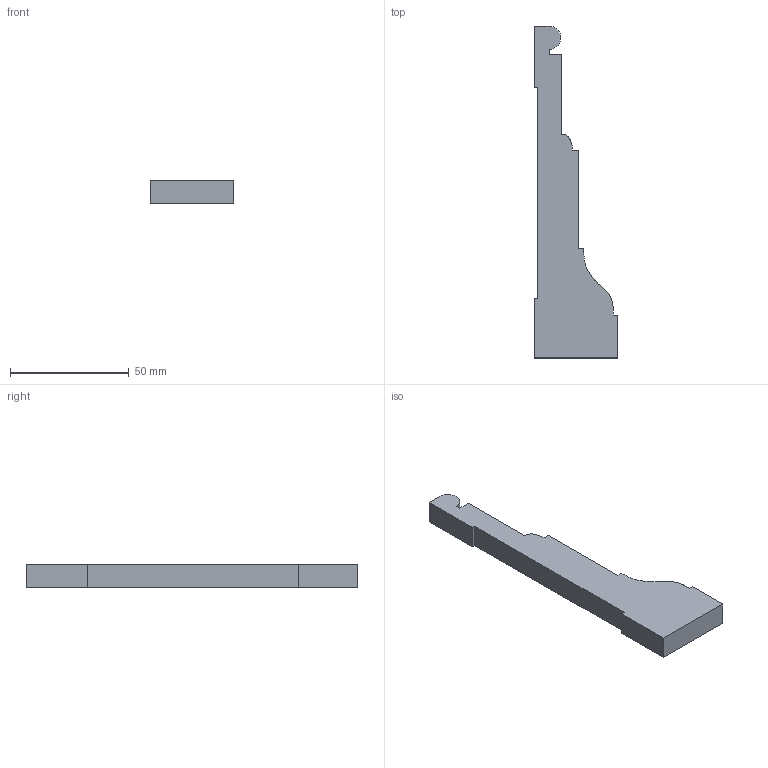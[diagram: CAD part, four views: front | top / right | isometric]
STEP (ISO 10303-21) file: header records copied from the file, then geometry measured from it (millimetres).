
FILE_DESCRIPTION (( 'STEP AP203' ), '1' );
FILE_NAME ('AB137FJ.STEP', '2024-02-17T09:55:10', ( '' ), ( '' ), 'SwSTEP 2.0', 'SolidWorks 2020', '' );
FILE_SCHEMA (( 'CONFIG_CONTROL_DESIGN' ));
Length unit declared in the file: millimetre
Products named in the file (1): AB137FJ
Bounding box: 35.26 x 139.96 x 10 mm (x, y, z)
Volume: 26402.9 mm3; surface area: 8762.6 mm2
Topology: 1 solids, 1 shells, 103 faces, 303 edges, 202 vertices
Faces by surface type: plane 102, cylinder 1
Entity records: 3436 total; most frequent: CARTESIAN_POINT 609, ORIENTED_EDGE 606, DIRECTION 513, EDGE_CURVE 303, VECTOR 301, LINE 301, VERTEX_POINT 202, AXIS2_PLACEMENT_3D 106
